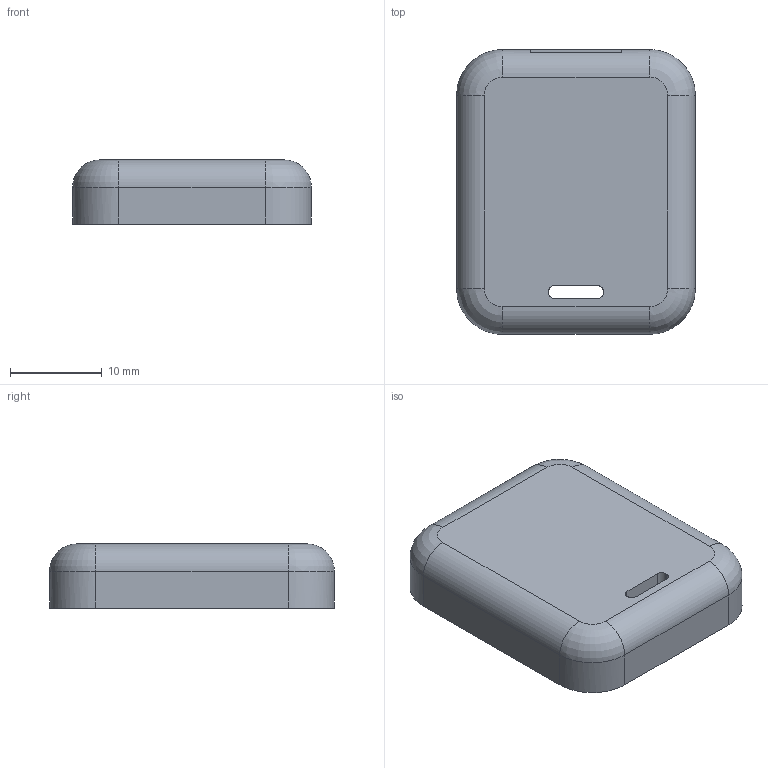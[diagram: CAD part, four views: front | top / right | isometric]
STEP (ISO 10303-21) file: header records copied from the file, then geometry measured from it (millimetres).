
FILE_DESCRIPTION(('SolidCraft model'),'2;1');
FILE_NAME('rounded_front_half_print_flat.step','',(''),(''),'SolidCraft','SolidCraft','');
FILE_SCHEMA(('AP242_MANAGED_MODEL_BASED_3D_ENGINEERING_MIM_LF { 1 0 10303 442 1 1 4 }'));
Length unit declared in the file: millimetre
Products named in the file (1): rounded_front_half_print_flat
Bounding box: 26 x 31 x 7 mm (x, y, z)
Volume: 5180.8 mm3; surface area: 2287.1 mm2
Topology: 1 solids, 1 shells, 33 faces, 85 edges, 54 vertices
Faces by surface type: plane 15, cylinder 14, revolution 4
Entity records: 904 total; most frequent: CARTESIAN_POINT 287, ORIENTED_EDGE 170, EDGE_CURVE 85, VERTEX_POINT 54, LINE 51, EDGE_LOOP 35, FACE_BOUND 35, ADVANCED_FACE 33
